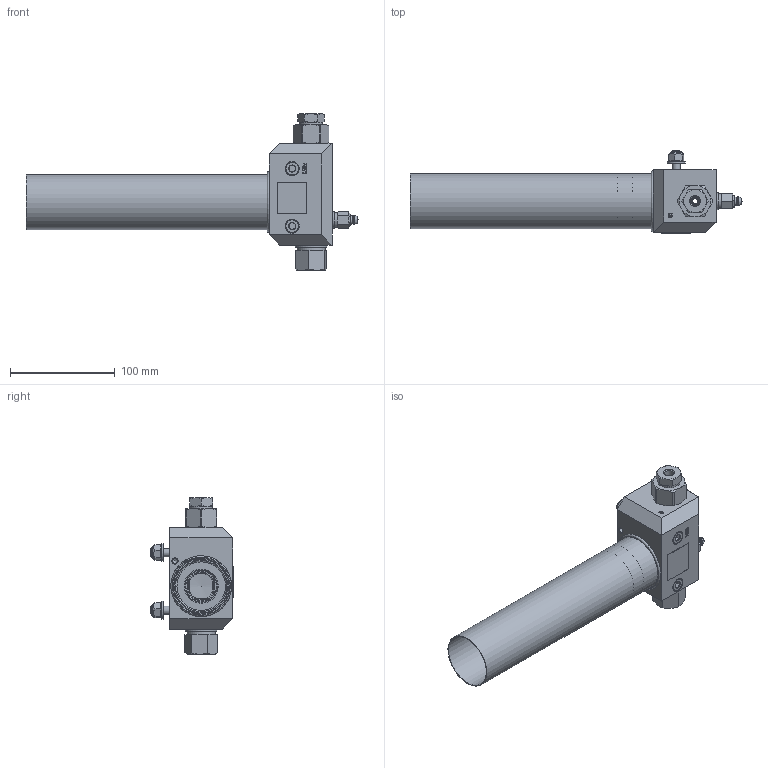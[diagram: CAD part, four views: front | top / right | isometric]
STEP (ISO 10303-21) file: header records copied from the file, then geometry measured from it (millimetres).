
FILE_DESCRIPTION(/* description */ ('Unknown'),/* implementation_level */ '2;1');
FILE_NAME(/* name */ 'MGH-LNLN-KX0000_363126',/* time_stamp */ '2024-12-02T08:51:35+02:00',/* author */ ('Unknown'),/* organization */ ('Unknown'),/* preprocessor_version */ 'ST-DEVELOPER v16.7',/* originating_system */ 'Solid Edge',/* authorisation */ 'Unknown');
FILE_SCHEMA (('AUTOMOTIVE_DESIGN {1 0 10303 214 3 1 1}'));
Length unit declared in the file: millimetre
Products named in the file (1): MGH-LNLN-KX0000_363126
Bounding box: 316.88 x 78.5 x 149.3 mm (x, y, z)
Volume: 342930.2 mm3; surface area: 173520.5 mm2
Topology: 21 solids, 21 shells, 478 faces, 1033 edges, 637 vertices
Faces by surface type: plane 175, cylinder 115, cone 106, bspline 36, torus 35, sphere 11
Full cylindrical faces by diameter (mm): 1.667 x1, 4.5 x1, 4.917 x1, 5.01 x1, 6 x1, 6.2 x1, 6.647 x2, 7.8 x1, 7.925 x1, 8 x4, 8.3 x1, 8.4 x2, 8.5 x2, 8.566 x2, 8.7 x1, 8.915 x1, 9.382 x2, 9.728 x1, 10.2 x1, 10.9 x1, 11.445 x1, 11.5 x2, 11.7 x1, 12.5 x2, 13 x2, 13.5 x2, 14 x1, 14.6 x1, 14.95 x1, 16 x1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
Entity records: 15473 total; most frequent: CARTESIAN_POINT 5190, DIRECTION 1851, ORIENTED_EDGE 1634, EDGE_CURVE 817, AXIS2_PLACEMENT_3D 812, FACE_BOUND 718, EDGE_LOOP 716, VERTEX_POINT 587
